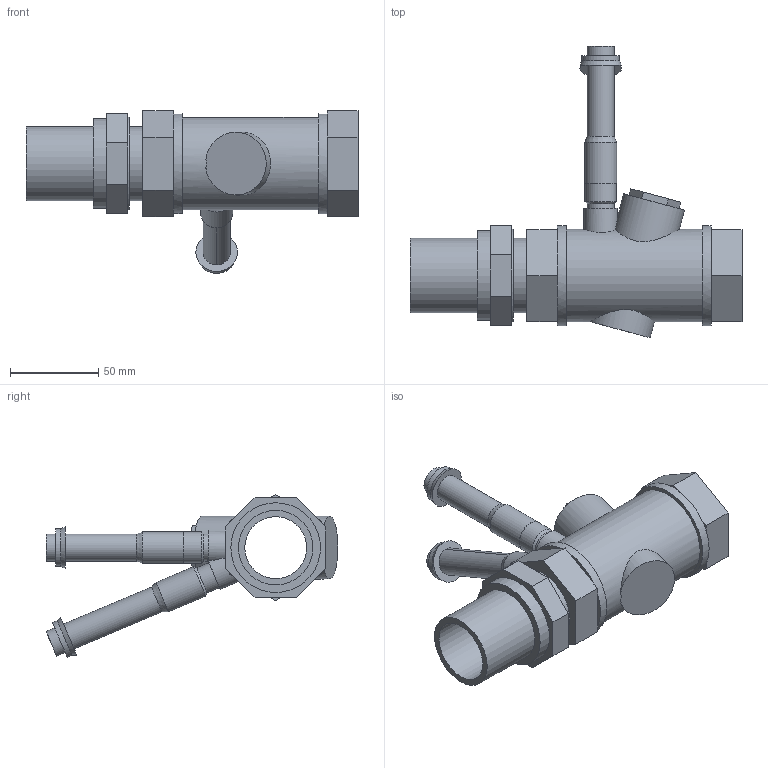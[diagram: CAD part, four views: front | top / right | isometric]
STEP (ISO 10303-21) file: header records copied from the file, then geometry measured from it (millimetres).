
FILE_DESCRIPTION(/* description */ ('VIC VALVE AUTO BALANCING SERIES 76K (SWTxFPT)','CAx-IF Rec.Pracs.---Representation and Presentation of Product Manufacturing Information (PMI)---4.0---2014-10-13'),/* implementation_level */ '2;1');
FILE_NAME(/* name */ 'C:\Users\kkamble\Desktop\KIRAN\2022\76B & 76K\76K\STEP\Victaulic_IPS_Valve Auto Balancing_Series 76K (SWTxFPT)\Victaulic_IPS_Valve Auto Balancing_Series 76K (SWTxFPT)_1.25 (32).stp',/* time_stamp */ '2022-03-04T13:34:15+05:00',/* author */ ('kkamble'),/* organization */ ('Victaulic'),/* preprocessor_version */ 'ST-DEVELOPER v17.2',/* originating_system */ 'Autodesk Inventor 2019',/* authorisation */ '');
FILE_SCHEMA (('AP242_MANAGED_MODEL_BASED_3D_ENGINEERING_MIM_LF { 1 0 10303 442 1 1 4 }'));
Length unit declared in the file: inch
Products named in the file (1): 76K-01.25
Bounding box: 187.96 x 165.14 x 92.17 mm (x, y, z)
Volume: 232486.2 mm3; surface area: 75519 mm2
Topology: 2 solids, 2 shells, 111 faces, 277 edges, 181 vertices
Faces by surface type: plane 72, cylinder 27, cone 12
Full cylindrical faces by diameter (mm): 15.24 x4, 17.78 x1, 18.034 x2, 21.336 x1, 35.052 x1, 35.56 x1, 42.164 x3, 50.8 x1, 52.324 x1, 56.515 x2
Entity records: 3779 total; most frequent: CARTESIAN_POINT 801, DIRECTION 635, ORIENTED_EDGE 554, EDGE_CURVE 277, AXIS2_PLACEMENT_3D 249, VERTEX_POINT 181, LINE 137, VECTOR 137
